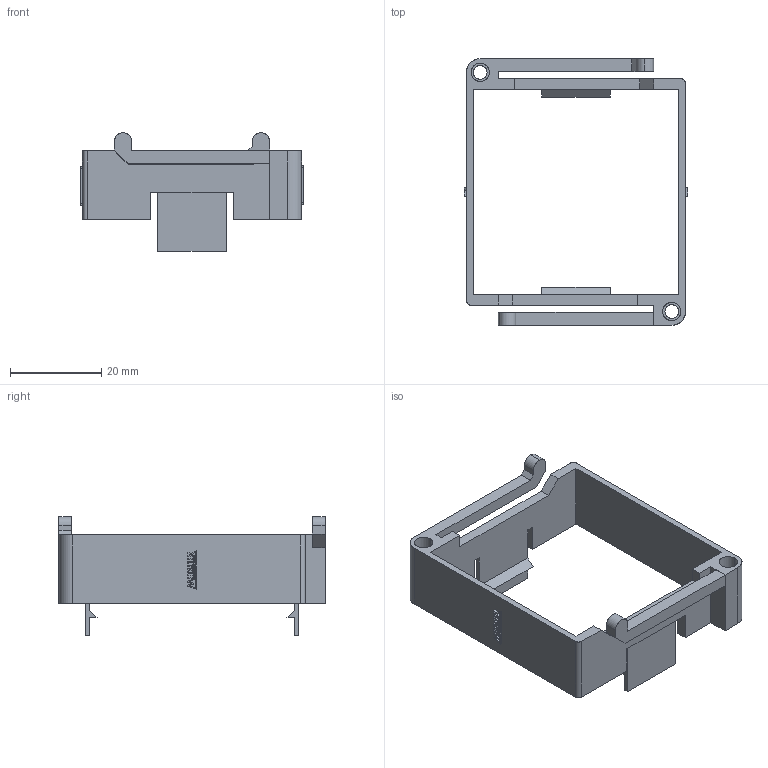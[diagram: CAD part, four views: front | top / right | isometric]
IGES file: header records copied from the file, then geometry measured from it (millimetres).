
Start section: SolidWorks IGES file using analytic representation for surfaces
Global section: file name: D:\X - Arquivos\PROEX\Empresas\P11 - METALTEX\01 - Produtos\IGES\6ª remessa\2ª etapa\T48.IGS; native system: SolidWorks 2012; preprocessor: SolidWorks 2012; author: Usuario; date: 190213.182923; units: millimetre
Bounding box: 49 x 58.4 x 26 mm (x, y, z)
Surface area: 8081.4 mm2 (no closed solid volume)
Topology: 0 solids, 0 shells, 265 faces, 1752 edges, 1752 vertices
Faces by surface type: bspline 250, revolution 15
